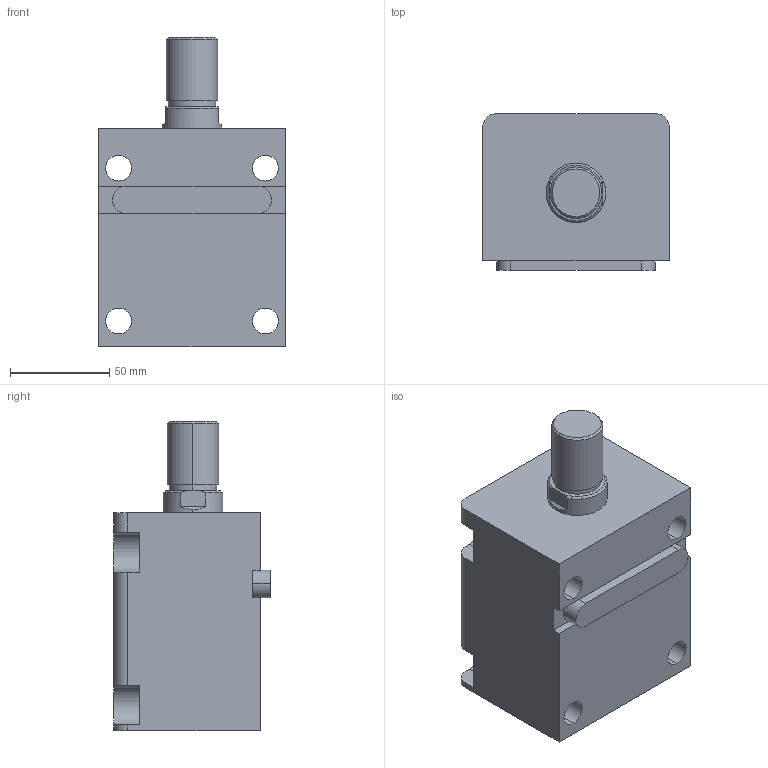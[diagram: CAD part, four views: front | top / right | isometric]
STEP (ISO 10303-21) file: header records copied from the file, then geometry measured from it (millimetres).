
FILE_DESCRIPTION (( 'STEP AP203' ), '1' );
FILE_NAME ('HTB-LA50-50W.STEP', '2019-10-09T07:10:04', ( '微软用户' ), ( '微软中国' ), 'SwSTEP 2.0', 'SolidWorks 2012', '' );
FILE_SCHEMA (( 'CONFIG_CONTROL_DESIGN' ));
Length unit declared in the file: millimetre
Products named in the file (4): HTB-LA50-50W活塞杆; HTB-LA50-50掛极; HTB-LA50-瑩; HTB-LA50-50W
Assembly tree (3 placements, depth 2):
  HTB-LA50-50W
    HTB-LA50-50掛极
    HTB-LA50-50W活塞杆
    HTB-LA50-瑩
Bounding box: 94 x 79 x 156 mm (x, y, z)
Volume: 677531.8 mm3; surface area: 100900.7 mm2
Topology: 3 solids, 3 shells, 90 faces, 219 edges, 144 vertices
Faces by surface type: plane 41, cylinder 37, cone 8, torus 4
Entity records: 3107 total; most frequent: DIRECTION 497, CARTESIAN_POINT 487, ORIENTED_EDGE 438, EDGE_CURVE 219, AXIS2_PLACEMENT_3D 190, VERTEX_POINT 144, LINE 117, VECTOR 117
